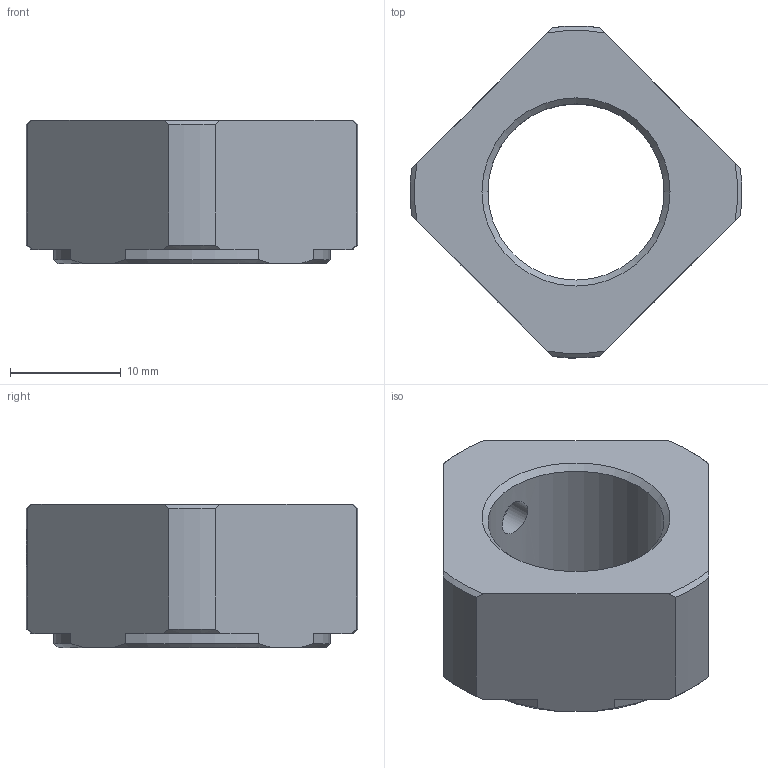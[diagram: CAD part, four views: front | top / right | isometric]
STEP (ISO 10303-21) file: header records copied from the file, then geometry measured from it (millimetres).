
FILE_DESCRIPTION(/* description */ ('STEP AP203'),/* implementation_level */ '2;1');
FILE_NAME(/* name */ 'RN 17',/* time_stamp */ '2025-06-11T07:41:52+02:00',/* author */ ('License CC BY-ND 4.0'),/* organization */ ('CADENAS'),/* preprocessor_version */ 'ST-DEVELOPER v19.3',/* originating_system */ 'PARTsolutions',/* authorisation */ ' ');
FILE_SCHEMA (('CONFIG_CONTROL_DESIGN'));
Length unit declared in the file: millimetre
Products named in the file (1): RN 17
Bounding box: 29.97 x 29.98 x 13 mm (x, y, z)
Volume: 4542.3 mm3; surface area: 2500.7 mm2
Topology: 1 solids, 1 shells, 45 faces, 117 edges, 77 vertices
Faces by surface type: plane 19, cone 15, cylinder 11
Full cylindrical faces by diameter (mm): 3.242 x1, 4 x1, 15.917 x1
Entity records: 1426 total; most frequent: CARTESIAN_POINT 326, ORIENTED_EDGE 222, DIRECTION 212, EDGE_CURVE 111, AXIS2_PLACEMENT_3D 81, VERTEX_POINT 77, EDGE_LOOP 56, FACE_BOUND 56
